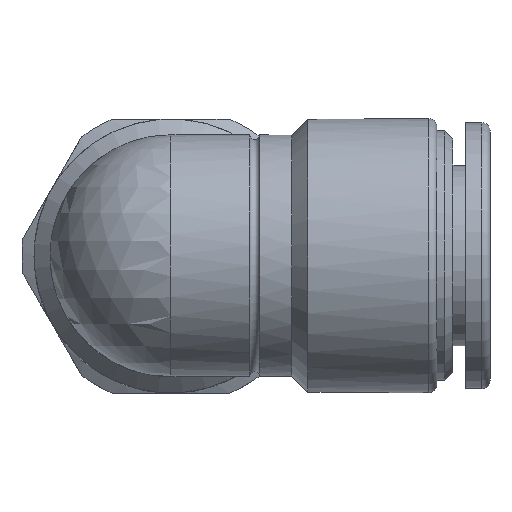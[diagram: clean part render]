
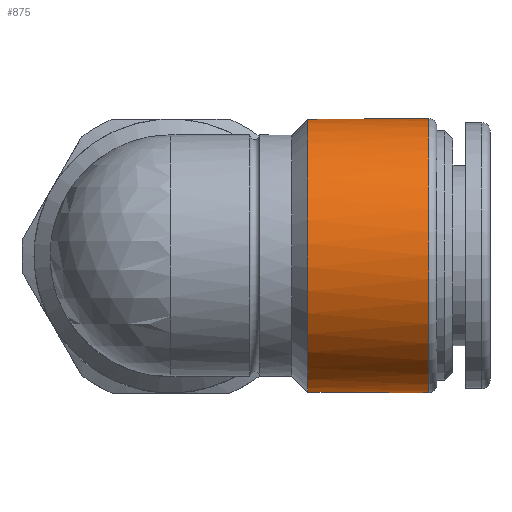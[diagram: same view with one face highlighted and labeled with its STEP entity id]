
A CAD part, top view. The second image highlights one B-rep face of the part: STEP entity #875.
In plain terms, the highlighted cylindrical face has radius 8.5 mm (diameter 17 mm), a full revolution.
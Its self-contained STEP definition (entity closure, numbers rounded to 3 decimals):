
#48=LINE($,#1598,#76);
#53=LINE($,#1618,#81);
#76=VECTOR($,#1227,2.);
#81=VECTOR($,#1238,2.);
#98=CYLINDRICAL_SURFACE($,#994,8.5);
#166=FACE_BOUND($,#295,.T.);
#220=FACE_OUTER_BOUND($,#294,.T.);
#294=EDGE_LOOP($,(#779));
#295=EDGE_LOOP($,(#780,#781,#782,#783,#784));
#354=CIRCLE($,#991,8.5);
#355=CIRCLE($,#993,8.5);
#356=CIRCLE($,#995,8.5);
#357=CIRCLE($,#996,8.5);
#432=VERTEX_POINT($,#1595);
#433=VERTEX_POINT($,#1597);
#436=VERTEX_POINT($,#1607);
#438=VERTEX_POINT($,#1613);
#439=VERTEX_POINT($,#1617);
#440=VERTEX_POINT($,#1628);
#544=EDGE_CURVE($,#433,#432,#48,.T.);
#552=EDGE_CURVE($,#439,#438,#53,.T.);
#556=EDGE_CURVE($,#436,#439,#354,.T.);
#557=EDGE_CURVE($,#432,#436,#355,.T.);
#558=EDGE_CURVE($,#440,#440,#356,.T.);
#559=EDGE_CURVE($,#433,#438,#357,.T.);
#779=ORIENTED_EDGE($,*,*,#558,.F.);
#780=ORIENTED_EDGE($,*,*,#544,.T.);
#781=ORIENTED_EDGE($,*,*,#557,.T.);
#782=ORIENTED_EDGE($,*,*,#556,.T.);
#783=ORIENTED_EDGE($,*,*,#552,.T.);
#784=ORIENTED_EDGE($,*,*,#559,.F.);
#875=ADVANCED_FACE($,(#220,#166),#98,.T.);
#991=AXIS2_PLACEMENT_3D($,#1624,#1248,#1249);
#993=AXIS2_PLACEMENT_3D($,#1626,#1252,#1253);
#994=AXIS2_PLACEMENT_3D($,#1627,#1254,#1255);
#995=AXIS2_PLACEMENT_3D($,#1629,#1256,#1257);
#996=AXIS2_PLACEMENT_3D($,#1630,#1258,#1259);
#1227=DIRECTION($,(1.,0.,0.));
#1238=DIRECTION($,(-1.,0.,0.));
#1248=DIRECTION('center_axis',(1.,0.,0.));
#1249=DIRECTION('ref_axis',(0.,0.,1.));
#1252=DIRECTION('center_axis',(1.,0.,0.));
#1253=DIRECTION('ref_axis',(0.,0.,1.));
#1254=DIRECTION('center_axis',(1.,0.,0.));
#1255=DIRECTION('ref_axis',(0.,0.,1.));
#1256=DIRECTION('center_axis',(1.,0.,0.));
#1257=DIRECTION('ref_axis',(0.,0.,1.));
#1258=DIRECTION('center_axis',(-1.,0.,0.));
#1259=DIRECTION('ref_axis',(0.,0.,1.));
#1595=CARTESIAN_POINT('',(10.5,-0.75,-8.467));
#1597=CARTESIAN_POINT('',(8.5,-0.75,-8.467));
#1598=CARTESIAN_POINT($,(7.5,-0.75,-8.467));
#1607=CARTESIAN_POINT('',(10.5,0.,-8.5));
#1613=CARTESIAN_POINT('',(8.5,0.75,-8.467));
#1617=CARTESIAN_POINT('',(10.5,0.75,-8.467));
#1618=CARTESIAN_POINT($,(7.5,0.75,-8.467));
#1624=CARTESIAN_POINT('Origin',(10.5,0.,0.));
#1626=CARTESIAN_POINT('Origin',(10.5,0.,0.));
#1627=CARTESIAN_POINT('Origin',(7.5,0.,0.));
#1628=CARTESIAN_POINT('',(16.,0.,-8.5));
#1629=CARTESIAN_POINT('Origin',(16.,0.,0.));
#1630=CARTESIAN_POINT('Origin',(8.5,0.,0.));
